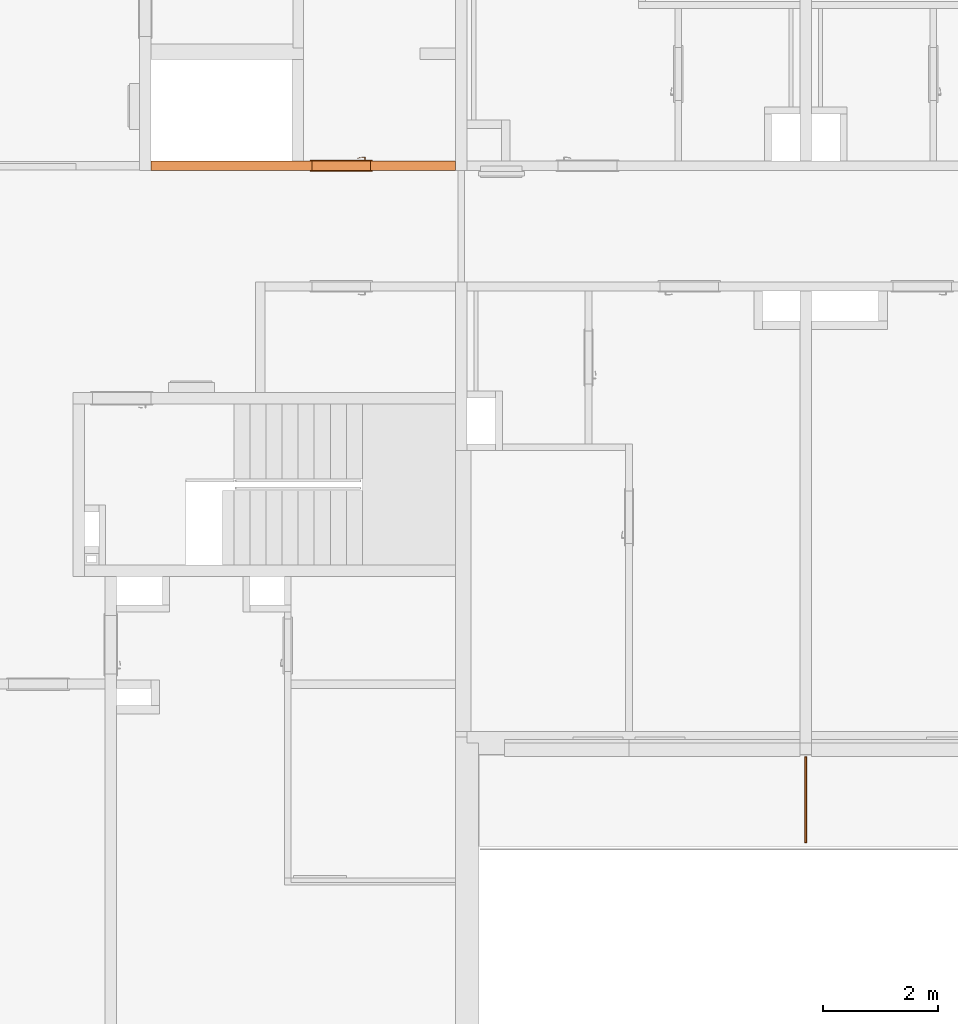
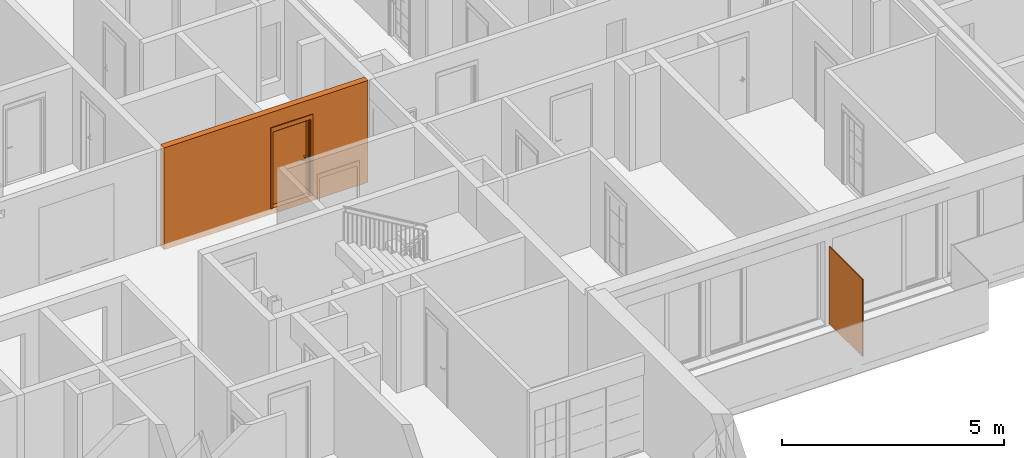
# One storey, part 30 of 67: 3 proxies, 1 opening.
"""IFC2X3 building model written with IfcOpenShell, lengths in millimetres."""

from ifc_helpers import new_model, entity, si_unit, converted_unit, derived_unit, money_unit, direction, frame, origin_with_axes, origin_2d_with_axis, place, context, subcontext, project, spatial, polyline, rectangle, outline, extrude, open_shell, faceted_brep, surface_model, source, transform, mapped, material, type_object, element, fill, save


model = new_model("IFC2X3")

# Units and contexts
model_context = context("Model", 3, precision=0.01, world=origin_with_axes(), true_north=direction((0.34421633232, 0.938890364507)))
body_context = subcontext(model_context, "Body", "Model", "MODEL_VIEW")
ifc_project = project(units=[si_unit("LENGTHUNIT", "METRE", prefix="MILLI"), si_unit("AREAUNIT", "SQUARE_METRE"), si_unit("VOLUMEUNIT", "CUBIC_METRE"), converted_unit("PLANEANGLEUNIT", "DEGREE", entity("IfcPlaneAngleMeasure", 0.0174532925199), si_unit("PLANEANGLEUNIT", "RADIAN"), dimensions=[0, 0, 0, 0, 0, 0, 0]), si_unit("SOLIDANGLEUNIT", "STERADIAN"), money_unit("USD"), converted_unit("TIMEUNIT", "Year", entity("IfcTimeMeasure", 31556926.0), si_unit("TIMEUNIT", "SECOND"), dimensions=[0, 0, 1, 0, 0, 0, 0]), si_unit("MASSUNIT", "GRAM", prefix="KILO"), si_unit("THERMODYNAMICTEMPERATUREUNIT", "DEGREE_CELSIUS"), si_unit("LUMINOUSINTENSITYUNIT", "LUMEN"), si_unit("ENERGYUNIT", "JOULE", prefix="MEGA"), derived_unit("THERMALCONDUCTANCEUNIT", [(si_unit("POWERUNIT", "WATT"), 1), (si_unit("LENGTHUNIT", "METRE"), -1), (si_unit("THERMODYNAMICTEMPERATUREUNIT", "KELVIN"), -1)]), derived_unit("SPECIFICHEATCAPACITYUNIT", [(si_unit("ENERGYUNIT", "JOULE"), 1), (si_unit("MASSUNIT", "GRAM", prefix="KILO"), -1), (si_unit("THERMODYNAMICTEMPERATUREUNIT", "KELVIN"), -1)]), derived_unit("MASSDENSITYUNIT", [(si_unit("MASSUNIT", "GRAM", prefix="KILO"), 1), (si_unit("VOLUMEUNIT", "CUBIC_METRE"), -1)])], contexts=[model_context])

# Site, building, storey
site_placement = place(None, origin_with_axes())
site = spatial("IfcSite", under=ifc_project, at=site_placement, Name="USTRONIE MORSKIE", CompositionType="ELEMENT")
building_placement = place(site_placement, origin_with_axes())
building = spatial("IfcBuilding", under=site, at=building_placement, Name="Budynek", CompositionType="ELEMENT")
storey_placement = place(building_placement, frame((0.0, 0.0, 4000.0), z_axis=(0.0, 0.0, 1.0), x_axis=(1.0, 0.0, 0.0)))
storey = spatial("IfcBuildingStorey", under=building, at=storey_placement, Name="PIĘTRO 1", CompositionType="ELEMENT", Elevation=4000.0)

# Proxies, opening
ifc_material_1 = material(Name="Beton konstrukcyjny B25")
building_element_proxy_type_1 = type_object("IfcBuildingElementProxyType", Name="Beton konstrukcyjny B25 160", PredefinedType="NOTDEFINED")
proxy_1_placement = place(storey_placement, frame((396317.911316, 736851.199036, -160.0), z_axis=(0.0, 0.0, 1.0), x_axis=(-1.0, 0.0, 0.0)))
proxy_1 = element("IfcBuildingElementProxy", 1, at=proxy_1_placement, inside=storey, type_object=building_element_proxy_type_1, material=ifc_material_1, Name="SW-01", context=body_context, shape_type="Brep", body=[
    faceted_brep([(5399.99039729, -80.0, 2800.0), (99.9999021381, -80.0, 2800.0), (99.9999021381, -80.0, 0.0), (5399.99039729, -80.0, 0.0), (5399.99039729, 80.0, 2800.0), (100.000097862, 80.0, 2800.0), (100.000097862, 80.0, 0.0), (5399.99039729, 80.0, 0.0)], [[[0, 1, 2, 3]], [[4, 5, 1, 0]], [[2, 1, 5, 6]], [[2, 6, 7, 3]], [[7, 4, 0, 3]], [[6, 5, 4, 7]]]),
])
opening_placement = place(proxy_1_placement, frame((2089.99039729, 0.0, 160.0), z_axis=(0.0, 0.0, 1.0), x_axis=(1.0, 0.0, 0.0)))
opening = element("IfcOpeningElement", 2, at=opening_placement, cuts=proxy_1, Name="Dw.2", context=body_context, shape_type="SweptSolid", body=[
    extrude(rectangle(XDim=1020.0, YDim=2120.0, at=origin_2d_with_axis()), frame((0.0, 160.0, 1060.0), z_axis=(0.0, 1.0, 0.0), x_axis=(1.0, 0.0, 0.0)), (0.0, 0.0, -1.0), 480.0),
    extrude(rectangle(XDim=1094.0, YDim=2227.0, at=origin_2d_with_axis()), frame((0.0, 79.9999999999, 1113.5), z_axis=(0.0, 1.0, 0.0), x_axis=(1.0, 0.0, 0.0)), (0.0, 0.0, 1.0), 160.0),
    extrude(rectangle(XDim=1094.0, YDim=2227.0, at=origin_2d_with_axis()), frame((0.0, -80.0, 1113.5), z_axis=(0.0, -1.0, 0.0), x_axis=(1.0, 0.0, 0.0)), (0.0, 0.0, 1.0), 160.0),
])
building_element_proxy_type_2 = type_object("IfcBuildingElementProxyType", Name="Drzwi 23", PredefinedType="NOTDEFINED")
shared_shape = source(origin_with_axes(), body_context, "Body", "SurfaceModel", [
    faceted_brep([(510.0, -115.0, 0.0), (510.0, -160.0, 0.0), (485.0, -160.0, 0.0), (485.0, -115.0, 0.0), (510.0, -115.0, 2120.0), (510.0, -160.0, 2120.0), (485.0, -160.0, 2095.0), (485.0, -115.0, 2095.0)], [[[0, 1, 2, 3]], [[4, 5, 1, 0]], [[1, 5, 6, 2]], [[3, 2, 6, 7]], [[0, 3, 7, 4]], [[7, 6, 5, 4]]]),
    faceted_brep([(-510.0, -115.0, 2120.0), (-510.0, -160.0, 2120.0), (-485.0, -160.0, 2095.0), (-485.0, -115.0, 2095.0), (-510.0, -115.0, 0.0), (-510.0, -160.0, 0.0), (-485.0, -160.0, 0.0), (-485.0, -115.0, 0.0)], [[[0, 1, 2, 3]], [[4, 5, 1, 0]], [[1, 5, 6, 2]], [[3, 2, 6, 7]], [[0, 3, 7, 4]], [[7, 6, 5, 4]]]),
    faceted_brep([(485.0, -115.0, 2095.0), (485.0, -160.0, 2095.0), (-485.0, -160.0, 2095.0), (-485.0, -115.0, 2095.0), (510.0, -115.0, 2120.0), (510.0, -160.0, 2120.0), (-510.0, -160.0, 2120.0), (-510.0, -115.0, 2120.0)], [[[0, 1, 2, 3]], [[4, 5, 1, 0]], [[1, 5, 6, 2]], [[3, 2, 6, 7]], [[0, 3, 7, 4]], [[7, 6, 5, 4]]]),
    faceted_brep([(547.0, -179.0, 0.0), (497.0, -179.0, 0.0), (497.0, -160.0, 0.0), (547.0, -160.0, 0.0), (547.0, -179.0, 2227.0), (497.0, -179.0, 2107.0), (497.0, -160.0, 2107.0), (547.0, -160.0, 2227.0)], [[[0, 1, 2, 3]], [[0, 4, 5, 1]], [[1, 5, 6, 2]], [[3, 2, 6, 7]], [[4, 0, 3, 7]], [[5, 4, 7, 6]]]),
    faceted_brep([(-547.0, -179.0, 2227.0), (-497.0, -179.0, 2107.0), (-497.0, -160.0, 2107.0), (-547.0, -160.0, 2227.0), (-547.0, -179.0, 0.0), (-497.0, -179.0, 0.0), (-497.0, -160.0, 0.0), (-547.0, -160.0, 0.0)], [[[0, 1, 2, 3]], [[0, 4, 5, 1]], [[1, 5, 6, 2]], [[3, 2, 6, 7]], [[4, 0, 3, 7]], [[5, 4, 7, 6]]]),
    faceted_brep([(547.0, -179.0, 2227.0), (497.0, -179.0, 2107.0), (497.0, -160.0, 2107.0), (547.0, -160.0, 2227.0), (-547.0, -179.0, 2227.0), (-497.0, -179.0, 2107.0), (-497.0, -160.0, 2107.0), (-547.0, -160.0, 2227.0)], [[[0, 1, 2, 3]], [[0, 4, 5, 1]], [[1, 5, 6, 2]], [[3, 2, 6, 7]], [[4, 0, 3, 7]], [[5, 4, 7, 6]]]),
    faceted_brep([(547.0, 19.0, 0.0), (547.0, 0.0, 0.0), (497.0, 0.0, 0.0), (497.0, 19.0, 0.0), (547.0, 19.0, 2227.0), (547.0, 0.0, 2227.0), (497.0, 0.0, 2107.0), (497.0, 19.0, 2107.0)], [[[0, 1, 2, 3]], [[4, 5, 1, 0]], [[1, 5, 6, 2]], [[3, 2, 6, 7]], [[0, 3, 7, 4]], [[7, 6, 5, 4]]]),
    faceted_brep([(-547.0, 19.0, 2227.0), (-547.0, 0.0, 2227.0), (-497.0, 0.0, 2107.0), (-497.0, 19.0, 2107.0), (-547.0, 19.0, 0.0), (-547.0, 0.0, 0.0), (-497.0, 0.0, 0.0), (-497.0, 19.0, 0.0)], [[[0, 1, 2, 3]], [[4, 5, 1, 0]], [[1, 5, 6, 2]], [[3, 2, 6, 7]], [[0, 3, 7, 4]], [[7, 6, 5, 4]]]),
    faceted_brep([(547.0, 19.0, 2227.0), (547.0, 0.0, 2227.0), (497.0, 0.0, 2107.0), (497.0, 19.0, 2107.0), (-547.0, 19.0, 2227.0), (-547.0, 0.0, 2227.0), (-497.0, 0.0, 2107.0), (-497.0, 19.0, 2107.0)], [[[0, 1, 2, 3]], [[4, 5, 1, 0]], [[1, 5, 6, 2]], [[3, 2, 6, 7]], [[0, 3, 7, 4]], [[7, 6, 5, 4]]]),
    faceted_brep([(450.0, -40.0, 0.0), (450.0, -115.0, 0.0), (450.0, -115.0, 2050.0), (450.0, -40.0, 2050.0), (462.0, -40.0, 0.0), (462.0, 0.0, 0.0), (510.0, 0.0, 0.0), (510.0, -115.0, 0.0), (510.0, -115.0, 2050.0), (462.0, -40.0, 2050.0), (510.0, 0.0, 2050.0), (462.0, 0.0, 2050.0)], [[[0, 1, 2, 3]], [[4, 5, 6, 7, 1, 0]], [[1, 7, 8, 2]], [[9, 3, 2, 8, 10, 11]], [[9, 4, 0, 3]], [[11, 5, 4, 9]], [[11, 10, 6, 5]], [[6, 10, 8, 7]]]),
    faceted_brep([(-462.0, -40.0, 2050.0), (-462.0, 0.0, 2050.0), (-510.0, 0.0, 2050.0), (-510.0, -115.0, 2050.0), (-450.0, -115.0, 2050.0), (-450.0, -40.0, 2050.0), (-462.0, -40.0, 0.0), (-462.0, 0.0, 0.0), (-510.0, 0.0, 0.0), (-510.0, -115.0, 0.0), (-450.0, -115.0, 0.0), (-450.0, -40.0, 0.0)], [[[0, 1, 2, 3, 4, 5]], [[0, 6, 7, 1]], [[7, 8, 2, 1]], [[2, 8, 9, 3]], [[3, 9, 10, 4]], [[5, 4, 10, 11]], [[5, 11, 6, 0]], [[6, 11, 10, 9, 8, 7]]]),
    faceted_brep([(462.0, 0.0, 2062.0), (-462.0, 0.0, 2062.0), (-462.0, 0.0, 2050.0), (-510.0, 0.0, 2050.0), (-510.0, 0.0, 2120.0), (510.0, 0.0, 2120.0), (510.0, 0.0, 2050.0), (462.0, 0.0, 2050.0), (462.0, -40.0, 2062.0), (-462.0, -40.0, 2062.0), (-462.0, -40.0, 2050.0), (-450.0, -40.0, 2050.0), (-450.0, -115.0, 2050.0), (-510.0, -115.0, 2050.0), (-510.0, -115.0, 2120.0), (510.0, -115.0, 2120.0), (510.0, -115.0, 2050.0), (462.0, -40.0, 2050.0), (450.0, -115.0, 2050.0), (450.0, -40.0, 2050.0)], [[[0, 1, 2, 3, 4, 5, 6, 7]], [[0, 8, 9, 1]], [[1, 9, 10, 2]], [[10, 11, 12, 13, 3, 2]], [[4, 3, 13, 14]], [[5, 4, 14, 15]], [[6, 5, 15, 16]], [[17, 7, 6, 16, 18, 19]], [[7, 17, 8, 0]], [[10, 9, 8, 17, 19, 11]], [[19, 18, 12, 11]], [[12, 18, 16, 15, 14, 13]]]),
    faceted_brep([(440.5, -40.0, 1060.0), (383.5, -40.0, 1060.0), (383.5, -43.0, 1060.0), (440.5, -43.0, 1060.0), (440.5, -40.0, 870.0), (383.5, -40.0, 870.0), (383.5, -43.0, 870.0), (440.5, -43.0, 870.0)], [[[0, 1, 2, 3]], [[0, 4, 5, 1]], [[1, 5, 6, 2]], [[3, 2, 6, 7]], [[4, 0, 3, 7]], [[5, 4, 7, 6]]]),
    faceted_brep([(412.0, -104.0, 990.0), (417.0, -104.0, 991.339745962), (417.0, -111.0, 991.339745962), (412.0, -111.0, 990.0), (387.0, -104.0, 990.0), (387.0, -104.0, 1010.0), (412.0, -104.0, 1010.0), (417.0, -104.0, 1008.66025404), (420.660254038, -104.0, 1005.0), (422.0, -104.0, 1000.0), (420.660254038, -104.0, 995.0), (420.660254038, -111.0, 995.0), (422.0, -111.0, 1000.0), (420.660254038, -111.0, 1005.0), (417.0, -111.0, 1008.66025404), (412.0, -111.0, 1010.0), (387.0, -111.0, 1010.0), (387.0, -111.0, 990.0)], [[[0, 1, 2, 3]], [[0, 4, 5, 6, 7, 8, 9, 10, 1]], [[1, 10, 11, 2]], [[3, 2, 11, 12, 13, 14, 15, 16, 17]], [[4, 0, 3, 17]], [[5, 4, 17, 16]], [[6, 5, 16, 15]], [[7, 6, 15, 14]], [[8, 7, 14, 13]], [[9, 8, 13, 12]], [[10, 9, 12, 11]]]),
    surface_model("IfcShellBasedSurfaceModel", [(387.0, -104.0, 1010.0), (373.901717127, -104.0, 1009.60730092), (373.596090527, -111.0, 1009.60730092), (387.0, -104.0, 990.0), (373.901717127, -104.0, 990.392699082), (346.890283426, -108.663544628, 1008.82190275), (387.0, -111.0, 1010.0), (387.0, -111.0, 990.0), (347.804837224, -101.716818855, 991.178097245), (347.804837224, -101.716818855, 1008.82190275), (346.890283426, -108.663544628, 991.178097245), (373.596090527, -111.0, 990.392699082), (322.006256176, -97.1678329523, 991.963495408), (322.006256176, -97.1678329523, 1008.03650459), (320.489735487, -104.008415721, 1008.03650459), (320.489735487, -104.008415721, 991.963495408), (296.702316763, -90.3876628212, 992.748893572), (296.702316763, -90.3876628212, 1007.25110643), (294.59537082, -97.0700416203, 1007.25110643), (294.59537082, -97.0700416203, 992.748893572), (288.829442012, -87.5221707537, 993.0), (288.829442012, -87.5221707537, 1007.0), (286.538795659, -94.1376880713, 1007.0), (286.538795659, -94.1376880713, 993.0)], [open_shell([[[0, 1, 2]], [[0, 3, 4, 1]], [[1, 5, 2]], [[0, 2, 6]], [[4, 3, 7]], [[1, 4, 8, 9]], [[1, 9, 5]], [[2, 5, 10, 11]], [[6, 2, 11, 7]], [[4, 7, 11]], [[8, 4, 11]], [[9, 8, 12, 13]], [[9, 14, 5]], [[5, 14, 15, 10]], [[8, 11, 10]], [[12, 8, 10]], [[13, 12, 16, 17]], [[9, 13, 14]], [[14, 18, 19, 15]], [[12, 10, 15]], [[16, 12, 15]], [[17, 16, 20, 21]], [[13, 17, 18]], [[13, 18, 14]], [[18, 22, 23, 19]], [[16, 15, 19]], [[20, 16, 19]], [[21, 20, 23, 22]], [[17, 21, 22]], [[17, 22, 18]], [[20, 19, 23]]])]),
    faceted_brep([(401.607695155, -53.0, 994.0), (400.0, -53.0, 1000.0), (399.0, -43.0, 1000.0), (400.741669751, -43.0, 993.5), (406.0, -53.0, 989.607695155), (412.0, -53.0, 988.0), (418.0, -53.0, 989.607695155), (422.392304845, -53.0, 994.0), (424.0, -53.0, 1000.0), (422.392304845, -53.0, 1006.0), (418.0, -53.0, 1010.39230485), (412.0, -53.0, 1012.0), (406.0, -53.0, 1010.39230485), (401.607695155, -53.0, 1006.0), (400.741669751, -43.0, 1006.5), (405.5, -43.0, 1011.25833025), (412.0, -43.0, 1013.0), (418.5, -43.0, 1011.25833025), (423.258330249, -43.0, 1006.5), (425.0, -43.0, 1000.0), (423.258330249, -43.0, 993.5), (418.5, -43.0, 988.741669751), (412.0, -43.0, 987.0), (405.5, -43.0, 988.741669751)], [[[0, 1, 2, 3]], [[1, 0, 4, 5, 6, 7, 8, 9, 10, 11, 12, 13]], [[1, 13, 14, 2]], [[2, 14, 15, 16, 17, 18, 19, 20, 21, 22, 23, 3]], [[4, 0, 3, 23]], [[5, 4, 23, 22]], [[6, 5, 22, 21]], [[7, 6, 21, 20]], [[8, 7, 20, 19]], [[9, 8, 19, 18]], [[10, 9, 18, 17]], [[11, 10, 17, 16]], [[12, 11, 16, 15]], [[13, 12, 15, 14]]]),
    faceted_brep([(394.679491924, -47.0, 895.0), (392.0, -47.0, 905.0), (390.0, -43.0, 905.0), (392.947441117, -43.0, 894.0), (402.0, -47.0, 887.679491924), (412.0, -47.0, 885.0), (422.0, -47.0, 887.679491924), (429.320508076, -47.0, 895.0), (432.0, -47.0, 905.0), (429.320508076, -47.0, 915.0), (422.0, -47.0, 922.320508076), (412.0, -47.0, 925.0), (402.0, -47.0, 922.320508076), (394.679491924, -47.0, 915.0), (392.947441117, -43.0, 916.0), (401.0, -43.0, 924.052558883), (412.0, -43.0, 927.0), (423.0, -43.0, 924.052558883), (431.052558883, -43.0, 916.0), (434.0, -43.0, 905.0), (431.052558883, -43.0, 894.0), (423.0, -43.0, 885.947441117), (412.0, -43.0, 883.0), (401.0, -43.0, 885.947441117)], [[[0, 1, 2, 3]], [[1, 0, 4, 5, 6, 7, 8, 9, 10, 11, 12, 13]], [[1, 13, 14, 2]], [[2, 14, 15, 16, 17, 18, 19, 20, 21, 22, 23, 3]], [[4, 0, 3, 23]], [[5, 4, 23, 22]], [[6, 5, 22, 21]], [[7, 6, 21, 20]], [[8, 7, 20, 19]], [[9, 8, 19, 18]], [[10, 9, 18, 17]], [[11, 10, 17, 16]], [[12, 11, 16, 15]], [[13, 12, 15, 14]]]),
    faceted_brep([(407.050252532, -49.0, 909.050252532), (405.0, -49.0, 914.0), (404.0, -47.0, 914.0), (406.343145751, -47.0, 908.343145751), (412.0, -49.0, 907.0), (416.949747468, -49.0, 909.050252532), (419.0, -49.0, 914.0), (416.949747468, -49.0, 918.949747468), (412.0, -49.0, 921.0), (407.050252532, -49.0, 918.949747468), (406.343145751, -47.0, 919.656854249), (412.0, -47.0, 922.0), (417.656854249, -47.0, 919.656854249), (420.0, -47.0, 914.0), (417.656854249, -47.0, 908.343145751), (412.0, -47.0, 906.0)], [[[0, 1, 2, 3]], [[1, 0, 4, 5, 6, 7, 8, 9]], [[1, 9, 10, 2]], [[2, 10, 11, 12, 13, 14, 15, 3]], [[4, 0, 3, 15]], [[5, 4, 15, 14]], [[6, 5, 14, 13]], [[7, 6, 13, 12]], [[8, 7, 12, 11]], [[9, 8, 11, 10]]]),
    faceted_brep([(412.0, -53.0, 1010.0), (407.0, -53.0, 1008.66025404), (407.0, -104.0, 1008.66025404), (412.0, -104.0, 1010.0), (417.0, -53.0, 1008.66025404), (420.660254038, -53.0, 1005.0), (422.0, -53.0, 1000.0), (420.660254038, -53.0, 995.0), (417.0, -53.0, 991.339745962), (412.0, -53.0, 990.0), (407.0, -53.0, 991.339745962), (403.339745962, -53.0, 995.0), (402.0, -53.0, 1000.0), (403.339745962, -53.0, 1005.0), (403.339745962, -104.0, 1005.0), (402.0, -104.0, 1000.0), (403.339745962, -104.0, 995.0), (407.0, -104.0, 991.339745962), (412.0, -104.0, 990.0), (417.0, -104.0, 991.339745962), (420.660254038, -104.0, 995.0), (422.0, -104.0, 1000.0), (420.660254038, -104.0, 1005.0), (417.0, -104.0, 1008.66025404)], [[[0, 1, 2, 3]], [[0, 4, 5, 6, 7, 8, 9, 10, 11, 12, 13, 1]], [[1, 13, 14, 2]], [[3, 2, 14, 15, 16, 17, 18, 19, 20, 21, 22, 23]], [[4, 0, 3, 23]], [[5, 4, 23, 22]], [[6, 5, 22, 21]], [[7, 6, 21, 20]], [[8, 7, 20, 19]], [[9, 8, 19, 18]], [[10, 9, 18, 17]], [[11, 10, 17, 16]], [[12, 11, 16, 15]], [[13, 12, 15, 14]]]),
    faceted_brep([(440.5, 0.0, 1060.0), (440.5, 3.0, 1060.0), (383.5, 3.0, 1060.0), (383.5, 0.0, 1060.0), (440.5, 0.0, 870.0), (440.5, 3.0, 870.0), (383.5, 3.0, 870.0), (383.5, 0.0, 870.0)], [[[0, 1, 2, 3]], [[4, 5, 1, 0]], [[1, 5, 6, 2]], [[3, 2, 6, 7]], [[0, 3, 7, 4]], [[7, 6, 5, 4]]]),
    faceted_brep([(412.0, 64.0, 990.0), (412.0, 71.0, 990.0), (417.0, 71.0, 991.339745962), (417.0, 64.0, 991.339745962), (387.0, 64.0, 990.0), (387.0, 71.0, 990.0), (387.0, 71.0, 1010.0), (412.0, 71.0, 1010.0), (417.0, 71.0, 1008.66025404), (420.660254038, 71.0, 1005.0), (422.0, 71.0, 1000.0), (420.660254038, 71.0, 995.0), (420.660254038, 64.0, 995.0), (422.0, 64.0, 1000.0), (420.660254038, 64.0, 1005.0), (417.0, 64.0, 1008.66025404), (412.0, 64.0, 1010.0), (387.0, 64.0, 1010.0)], [[[0, 1, 2, 3]], [[4, 5, 1, 0]], [[1, 5, 6, 7, 8, 9, 10, 11, 2]], [[3, 2, 11, 12]], [[0, 3, 12, 13, 14, 15, 16, 17, 4]], [[17, 6, 5, 4]], [[16, 7, 6, 17]], [[15, 8, 7, 16]], [[14, 9, 8, 15]], [[13, 10, 9, 14]], [[12, 11, 10, 13]]]),
    surface_model("IfcShellBasedSurfaceModel", [(387.0, 64.0, 1010.0), (373.596090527, 71.0, 1009.60730092), (373.901717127, 64.0, 1009.60730092), (387.0, 71.0, 1010.0), (346.890283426, 68.6635446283, 1008.82190275), (373.901717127, 64.0, 990.392699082), (387.0, 64.0, 990.0), (387.0, 71.0, 990.0), (373.596090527, 71.0, 990.392699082), (346.890283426, 68.6635446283, 991.178097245), (347.804837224, 61.716818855, 1008.82190275), (347.804837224, 61.716818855, 991.178097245), (320.489735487, 64.0084157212, 991.963495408), (320.489735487, 64.0084157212, 1008.03650459), (322.006256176, 57.1678329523, 1008.03650459), (322.006256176, 57.1678329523, 991.963495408), (294.59537082, 57.0700416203, 992.748893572), (294.59537082, 57.0700416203, 1007.25110643), (296.702316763, 50.3876628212, 1007.25110643), (296.702316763, 50.3876628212, 992.748893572), (286.538795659, 54.1376880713, 993.0), (286.538795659, 54.1376880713, 1007.0), (288.829442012, 47.5221707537, 1007.0), (288.829442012, 47.5221707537, 993.0)], [open_shell([[[0, 1, 2]], [[0, 3, 1]], [[2, 1, 4]], [[0, 2, 5, 6]], [[3, 7, 8, 1]], [[1, 8, 9, 4]], [[2, 4, 10]], [[2, 10, 11, 5]], [[5, 7, 6]], [[5, 8, 7]], [[11, 9, 8]], [[4, 9, 12, 13]], [[10, 4, 13]], [[10, 14, 15, 11]], [[11, 8, 5]], [[15, 9, 11]], [[15, 12, 9]], [[13, 12, 16, 17]], [[10, 13, 14]], [[14, 18, 19, 15]], [[19, 12, 15]], [[19, 16, 12]], [[17, 16, 20, 21]], [[14, 13, 17]], [[14, 17, 18]], [[18, 22, 23, 19]], [[23, 16, 19]], [[23, 20, 16]], [[22, 21, 20, 23]], [[18, 17, 21]], [[18, 21, 22]]])]),
    faceted_brep([(401.607695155, 13.0, 994.0), (400.741669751, 3.0, 993.5), (399.0, 3.0, 1000.0), (400.0, 13.0, 1000.0), (406.0, 13.0, 989.607695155), (405.5, 3.0, 988.741669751), (412.0, 3.0, 987.0), (418.5, 3.0, 988.741669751), (423.258330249, 3.0, 993.5), (425.0, 3.0, 1000.0), (423.258330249, 3.0, 1006.5), (418.5, 3.0, 1011.25833025), (412.0, 3.0, 1013.0), (405.5, 3.0, 1011.25833025), (400.741669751, 3.0, 1006.5), (401.607695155, 13.0, 1006.0), (406.0, 13.0, 1010.39230485), (412.0, 13.0, 1012.0), (418.0, 13.0, 1010.39230485), (422.392304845, 13.0, 1006.0), (424.0, 13.0, 1000.0), (422.392304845, 13.0, 994.0), (418.0, 13.0, 989.607695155), (412.0, 13.0, 988.0)], [[[0, 1, 2, 3]], [[4, 5, 1, 0]], [[2, 1, 5, 6, 7, 8, 9, 10, 11, 12, 13, 14]], [[3, 2, 14, 15]], [[3, 15, 16, 17, 18, 19, 20, 21, 22, 23, 4, 0]], [[23, 6, 5, 4]], [[22, 7, 6, 23]], [[21, 8, 7, 22]], [[20, 9, 8, 21]], [[19, 10, 9, 20]], [[18, 11, 10, 19]], [[17, 12, 11, 18]], [[16, 13, 12, 17]], [[15, 14, 13, 16]]]),
    faceted_brep([(394.679491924, 7.0, 895.0), (392.947441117, 3.0, 894.0), (390.0, 3.0, 905.0), (392.0, 7.0, 905.0), (402.0, 7.0, 887.679491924), (401.0, 3.0, 885.947441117), (412.0, 3.0, 883.0), (423.0, 3.0, 885.947441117), (431.052558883, 3.0, 894.0), (434.0, 3.0, 905.0), (431.052558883, 3.0, 916.0), (423.0, 3.0, 924.052558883), (412.0, 3.0, 927.0), (401.0, 3.0, 924.052558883), (392.947441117, 3.0, 916.0), (394.679491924, 7.0, 915.0), (402.0, 7.0, 922.320508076), (412.0, 7.0, 925.0), (422.0, 7.0, 922.320508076), (429.320508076, 7.0, 915.0), (432.0, 7.0, 905.0), (429.320508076, 7.0, 895.0), (422.0, 7.0, 887.679491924), (412.0, 7.0, 885.0)], [[[0, 1, 2, 3]], [[4, 5, 1, 0]], [[2, 1, 5, 6, 7, 8, 9, 10, 11, 12, 13, 14]], [[3, 2, 14, 15]], [[3, 15, 16, 17, 18, 19, 20, 21, 22, 23, 4, 0]], [[23, 6, 5, 4]], [[22, 7, 6, 23]], [[21, 8, 7, 22]], [[20, 9, 8, 21]], [[19, 10, 9, 20]], [[18, 11, 10, 19]], [[17, 12, 11, 18]], [[16, 13, 12, 17]], [[15, 14, 13, 16]]]),
    faceted_brep([(407.050252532, 9.0, 909.050252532), (406.343145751, 7.0, 908.343145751), (404.0, 7.0, 914.0), (405.0, 9.0, 914.0), (412.0, 9.0, 907.0), (412.0, 7.0, 906.0), (417.656854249, 7.0, 908.343145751), (420.0, 7.0, 914.0), (417.656854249, 7.0, 919.656854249), (412.0, 7.0, 922.0), (406.343145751, 7.0, 919.656854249), (407.050252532, 9.0, 918.949747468), (412.0, 9.0, 921.0), (416.949747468, 9.0, 918.949747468), (419.0, 9.0, 914.0), (416.949747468, 9.0, 909.050252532)], [[[0, 1, 2, 3]], [[4, 5, 1, 0]], [[2, 1, 5, 6, 7, 8, 9, 10]], [[3, 2, 10, 11]], [[3, 11, 12, 13, 14, 15, 4, 0]], [[15, 6, 5, 4]], [[14, 7, 6, 15]], [[13, 8, 7, 14]], [[12, 9, 8, 13]], [[11, 10, 9, 12]]]),
    faceted_brep([(412.0, 13.0, 1010.0), (412.0, 64.0, 1010.0), (407.0, 64.0, 1008.66025404), (407.0, 13.0, 1008.66025404), (417.0, 13.0, 1008.66025404), (417.0, 64.0, 1008.66025404), (420.660254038, 64.0, 1005.0), (422.0, 64.0, 1000.0), (420.660254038, 64.0, 995.0), (417.0, 64.0, 991.339745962), (412.0, 64.0, 990.0), (407.0, 64.0, 991.339745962), (403.339745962, 64.0, 995.0), (402.0, 64.0, 1000.0), (403.339745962, 64.0, 1005.0), (403.339745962, 13.0, 1005.0), (402.0, 13.0, 1000.0), (403.339745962, 13.0, 995.0), (407.0, 13.0, 991.339745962), (412.0, 13.0, 990.0), (417.0, 13.0, 991.339745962), (420.660254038, 13.0, 995.0), (422.0, 13.0, 1000.0), (420.660254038, 13.0, 1005.0)], [[[0, 1, 2, 3]], [[4, 5, 1, 0]], [[1, 5, 6, 7, 8, 9, 10, 11, 12, 13, 14, 2]], [[3, 2, 14, 15]], [[0, 3, 15, 16, 17, 18, 19, 20, 21, 22, 23, 4]], [[23, 6, 5, 4]], [[22, 7, 6, 23]], [[21, 8, 7, 22]], [[20, 9, 8, 21]], [[19, 10, 9, 20]], [[18, 11, 10, 19]], [[17, 12, 11, 18]], [[16, 13, 12, 17]], [[15, 14, 13, 16]]]),
    faceted_brep([(-462.0, 0.0, 0.0), (462.0, 0.0, 0.0), (462.0, -40.0, 0.0), (-462.0, -40.0, 0.0), (-462.0, 0.0, 2062.0), (462.0, 0.0, 2062.0), (462.0, -40.0, 2062.0), (-462.0, -40.0, 2062.0)], [[[0, 1, 2, 3]], [[0, 4, 5, 1]], [[1, 5, 6, 2]], [[3, 2, 6, 7]], [[4, 0, 3, 7]], [[5, 4, 7, 6]]]),
])
proxy_2_placement = place(opening_placement, frame((450.0, 0.0, 0.0), z_axis=(0.0, 0.0, 1.0), x_axis=(-1.0, 0.0, 0.0)))
proxy_2 = element("IfcBuildingElementProxy", 3, at=proxy_2_placement, inside=storey, type_object=building_element_proxy_type_2, Name="Dw.2", context=body_context, shape_type="MappedRepresentation", body=[
    mapped(shared_shape, transform((450.0, 80.0, 0.0))),
])
fill(opening, proxy_2)

# Proxy
ifc_material_2 = material(Name="Woda")
building_element_proxy_type_3 = type_object("IfcBuildingElementProxyType", Name="Woda 30", PredefinedType="NOTDEFINED")
proxy_3_placement = place(storey_placement, frame((402317.920919, 726561.18631, 20.0), z_axis=(0.0, 0.0, 1.0), x_axis=(0.0, -1.0, 0.0)))
element("IfcBuildingElementProxy", 4, at=proxy_3_placement, inside=storey, type_object=building_element_proxy_type_3, material=ifc_material_2, Name="Œciana-007", context=body_context, shape_type="SweptSolid", body=[
    extrude(outline(polyline([(0.0, -15.0), (1500.0, -15.0), (1500.0, 15.0), (0.0, 15.0), (0.0, -15.0)])), origin_with_axes(), (0.0, 0.0, 1.0), 2120.0),
])

save(model, "model.ifc")
